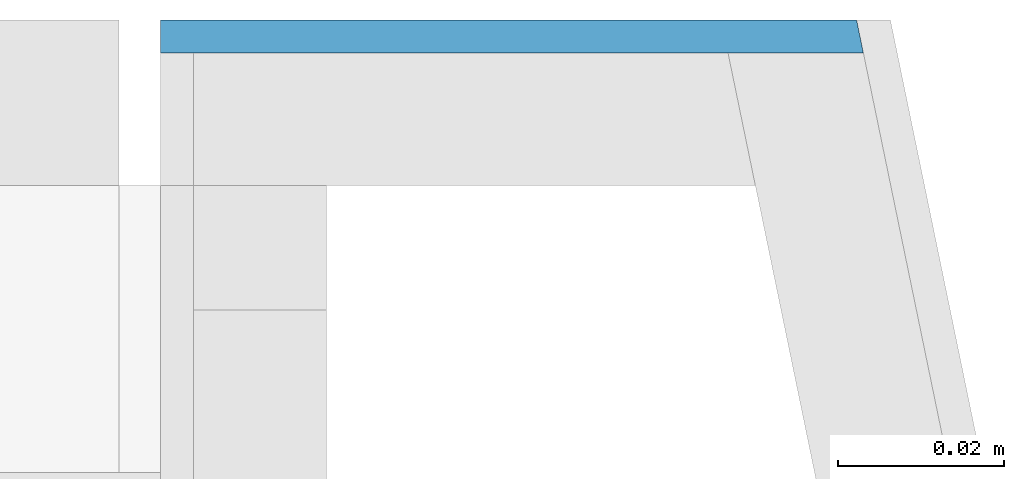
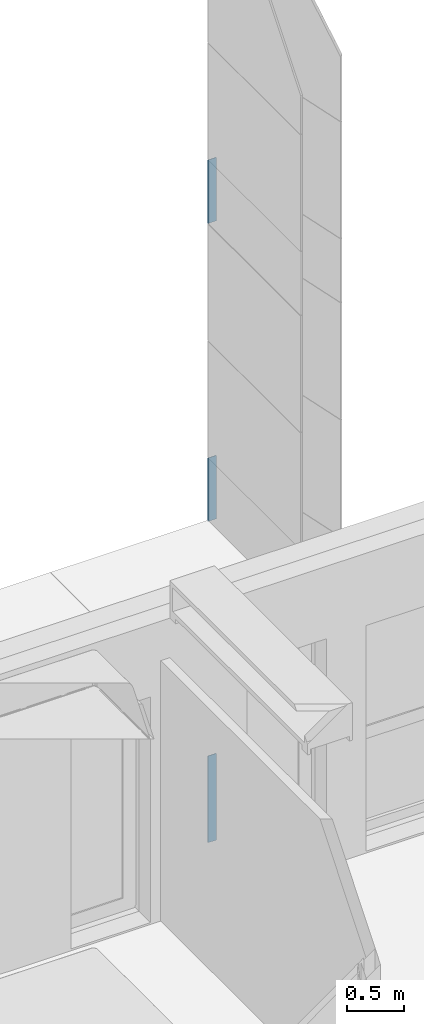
# One storey, part 38 of 125: 3 building element parts, 1 element without a shape of its own.
"""IFC2X3 building model written with IfcOpenShell, lengths in millimetres."""

from ifc_helpers import new_model, entity, si_unit, converted_unit, direction, frame, origin, place, context, subcontext, project, spatial, polyline, outline, extrude, material, type_object, element, aggregate, save


model = new_model("IFC2X3")

# Units and contexts
model_context = context("Model", 3, precision=0.01, world=origin(), true_north=direction((6.123233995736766e-17, 1.0)))
plan_context = context("Plan", 3, precision=0.01, world=origin(), true_north=direction((6.123233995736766e-17, 1.0)))
body_context = subcontext(model_context, "Body", "Model", "MODEL_VIEW")
ifc_project = project(units=[si_unit("LENGTHUNIT", "METRE", prefix="MILLI"), converted_unit("PLANEANGLEUNIT", "DEGREE", entity("IfcPlaneAngleMeasure", 0.017453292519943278), si_unit("PLANEANGLEUNIT", "RADIAN"), dimensions=[0, 0, 0, 0, 0, 0, 0]), si_unit("AREAUNIT", "SQUARE_METRE")], contexts=[model_context, plan_context])

# Site, building, storey
site_placement = place(None, origin())
site = spatial("IfcSite", under=ifc_project, at=site_placement, Name="Default", CompositionType="ELEMENT")
building_placement = place(site_placement, origin())
building = spatial("IfcBuilding", under=site, at=building_placement, CompositionType="ELEMENT")
storey_placement = place(building_placement, frame((0.0, 0.0, 3125.0)))
storey = spatial("IfcBuildingStorey", under=building, at=storey_placement, Name="2K", CompositionType="ELEMENT", Elevation=3125.0)

# Wall, building element parts
wall_type = type_object("IfcWallType", Name="Basic Wall:VS-komposiit", PredefinedType="STANDARD")
wall_placement = place(storey_placement, frame((8286.775755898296, 17442.0, -1010.0), z_axis=(0.0, 0.0, 1.0), x_axis=(-1.0, 0.0, 0.0)))
wall = element("IfcWall", 1, at=wall_placement, inside=storey, type_object=wall_type, Name="Basic Wall:VS-komposiit", ObjectType="Basic Wall:VS-komposiit")
ifc_material = material(Name="_K. Välisviimistlus. Alumiinium-komposiitplaat")
building_element_part_1_placement = place(wall_placement, origin())
building_element_part_1 = element("IfcBuildingElementPart", 2, at=building_element_part_1_placement, material=ifc_material, Name="Part", context=body_context, shape_type="SweptSolid", body=[
    extrude(outline(polyline([(-2.0, -42.20013519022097), (2.0, -42.20013519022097), (2.0, 42.61260185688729), (-2.0, 41.787668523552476), (-2.0, -42.20013519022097)])), frame((29.575620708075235, -8.0, 0.0), z_axis=(0.0, 0.0, 1.0), x_axis=(0.0, 1.0, 0.0)), (0.0, 0.0, 1.0), 922.4999999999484),
])
building_element_part_2_placement = place(wall_placement, origin())
building_element_part_2 = element("IfcBuildingElementPart", 3, at=building_element_part_2_placement, material=ifc_material, Name="Part", context=body_context, shape_type="SweptSolid", body=[
    extrude(outline(polyline([(-2.0, -42.20013519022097), (2.0, -42.20013519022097), (2.0, 42.61260185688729), (-2.0, 41.787668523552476), (-2.0, -42.20013519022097)])), frame((29.575620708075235, -8.0, 3417.499999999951), z_axis=(0.0, 0.0, 1.0), x_axis=(0.0, 1.0, 0.0)), (0.0, 0.0, 1.0), 674.999999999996),
])
building_element_part_3_placement = place(wall_placement, origin())
building_element_part_3 = element("IfcBuildingElementPart", 4, at=building_element_part_3_placement, material=ifc_material, Name="Part", context=body_context, shape_type="SweptSolid", body=[
    extrude(outline(polyline([(-2.0, -42.20013519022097), (2.0, -42.20013519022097), (2.0, 42.61260185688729), (-2.0, 41.787668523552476), (-2.0, -42.20013519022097)])), frame((29.575620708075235, -8.0, 6587.499999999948), z_axis=(0.0, 0.0, 1.0), x_axis=(0.0, 1.0, 0.0)), (0.0, 0.0, 1.0), 674.999999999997),
])
aggregate(wall, [building_element_part_1, building_element_part_2, building_element_part_3])

save(model, "model.ifc")
